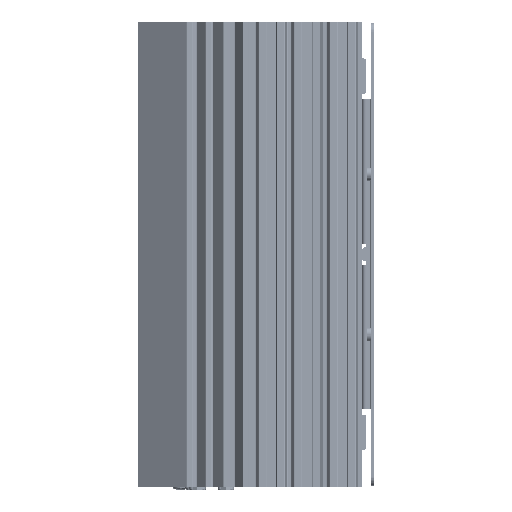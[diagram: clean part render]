
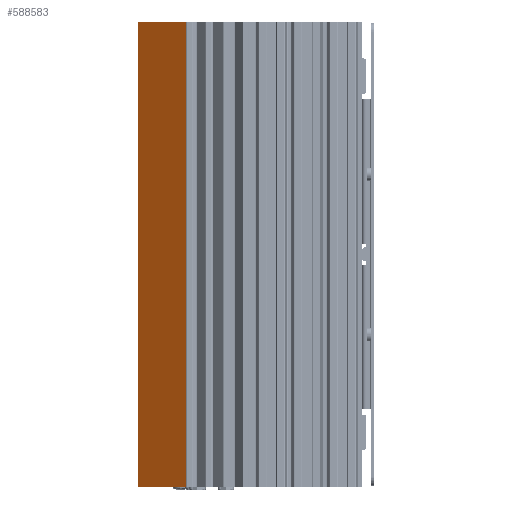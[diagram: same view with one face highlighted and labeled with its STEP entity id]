
A CAD part, left-side view. The second image highlights one B-rep face of the part: STEP entity #588583.
In plain terms, the highlighted planar face has unit normal (-0.819, 0.574, 0).
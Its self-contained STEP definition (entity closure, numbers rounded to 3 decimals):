
#39157 = ORIENTED_EDGE ( 'NONE', *, *, #543617, .T. ) ;
#53809 = DIRECTION ( 'NONE',  ( 0., 0., 1. ) ) ;
#69083 = CARTESIAN_POINT ( 'NONE',  ( -113.398, -7.532, -130.5 ) ) ;
#78366 = DIRECTION ( 'NONE',  ( -0.574, -0.819, 0. ) ) ;
#83701 = CARTESIAN_POINT ( 'NONE',  ( -94.26, 19.8, -130.5 ) ) ;
#96028 = EDGE_LOOP ( 'NONE', ( #39157, #498218, #288795, #457779 ) ) ;
#109254 = PLANE ( 'NONE',  #598952 ) ;
#118232 = CARTESIAN_POINT ( 'NONE',  ( -94.42, 19.571, 130.5 ) ) ;
#119891 = CARTESIAN_POINT ( 'NONE',  ( -94.42, 19.571, -130.5 ) ) ;
#134235 = CARTESIAN_POINT ( 'NONE',  ( -94.26, 19.8, 130.5 ) ) ;
#174150 = DIRECTION ( 'NONE',  ( 0., 0., -1. ) ) ;
#189391 = LINE ( 'NONE', #83701, #614949 ) ;
#221107 = DIRECTION ( 'NONE',  ( 0.819, -0.574, 0. ) ) ;
#258214 = VECTOR ( 'NONE', #174150, 1000. ) ;
#288795 = ORIENTED_EDGE ( 'NONE', *, *, #325551, .F. ) ;
#325551 = EDGE_CURVE ( 'NONE', #348394, #556296, #682716, .T. ) ;
#335125 = VECTOR ( 'NONE', #78366, 1000. ) ;
#348394 = VERTEX_POINT ( 'NONE', #582606 ) ;
#401192 = VECTOR ( 'NONE', #53809, 1000. ) ;
#422515 = CARTESIAN_POINT ( 'NONE',  ( -113.398, -7.532, 130.5 ) ) ;
#457779 = ORIENTED_EDGE ( 'NONE', *, *, #670269, .T. ) ;
#474635 = DIRECTION ( 'NONE',  ( -0.574, -0.819, 0. ) ) ;
#498218 = ORIENTED_EDGE ( 'NONE', *, *, #666024, .T. ) ;
#501941 = VERTEX_POINT ( 'NONE', #119891 ) ;
#513018 = FACE_OUTER_BOUND ( 'NONE', #96028, .T. ) ;
#543617 = EDGE_CURVE ( 'NONE', #501941, #703201, #189391, .T. ) ;
#549069 = LINE ( 'NONE', #607505, #401192 ) ;
#553785 = CARTESIAN_POINT ( 'NONE',  ( -94.26, 19.8, 130.5 ) ) ;
#556296 = VERTEX_POINT ( 'NONE', #422515 ) ;
#570950 = LINE ( 'NONE', #118232, #258214 ) ;
#582606 = CARTESIAN_POINT ( 'NONE',  ( -94.42, 19.571, 130.5 ) ) ;
#588583 = ADVANCED_FACE ( 'NONE', ( #513018 ), #109254, .F. ) ;
#598952 = AXIS2_PLACEMENT_3D ( 'NONE', #553785, #221107, #609370 ) ;
#607505 = CARTESIAN_POINT ( 'NONE',  ( -113.398, -7.532, 130.5 ) ) ;
#609370 = DIRECTION ( 'NONE',  ( 0.574, 0.819, 0. ) ) ;
#614949 = VECTOR ( 'NONE', #474635, 1000. ) ;
#666024 = EDGE_CURVE ( 'NONE', #703201, #556296, #549069, .T. ) ;
#670269 = EDGE_CURVE ( 'NONE', #348394, #501941, #570950, .T. ) ;
#682716 = LINE ( 'NONE', #134235, #335125 ) ;
#703201 = VERTEX_POINT ( 'NONE', #69083 ) ;
